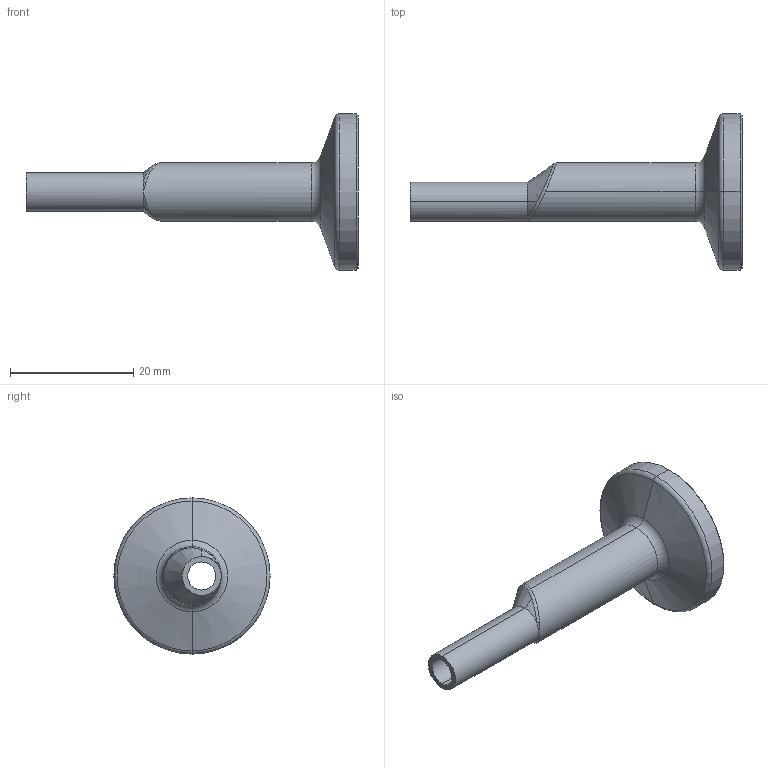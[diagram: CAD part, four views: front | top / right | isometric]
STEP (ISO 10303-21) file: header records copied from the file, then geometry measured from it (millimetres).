
FILE_DESCRIPTION (( 'STEP AP214' ), '1' );
FILE_NAME ('TE32SCW6L.375x.25-...STEP', '2016-06-01T10:23:45', ( 'eran' ), ( '' ), 'SwSTEP 2.0', 'SolidWorks 2016', '' );
FILE_SCHEMA (( 'AUTOMOTIVE_DESIGN' ));
Length unit declared in the file: millimetre
Products named in the file (1): TE32SCW6L.375x.25-..
Bounding box: 53.98 x 25.4 x 25.4 mm (x, y, z)
Volume: 3479.8 mm3; surface area: 3472.1 mm2
Topology: 1 solids, 1 shells, 40 faces, 88 edges, 49 vertices
Faces by surface type: cone 14, cylinder 12, torus 8, plane 3, bspline 3
Entity records: 1527 total; most frequent: CARTESIAN_POINT 627, DIRECTION 196, ORIENTED_EDGE 172, EDGE_CURVE 86, AXIS2_PLACEMENT_3D 86, VERTEX_POINT 49, CIRCLE 48, EDGE_LOOP 43
